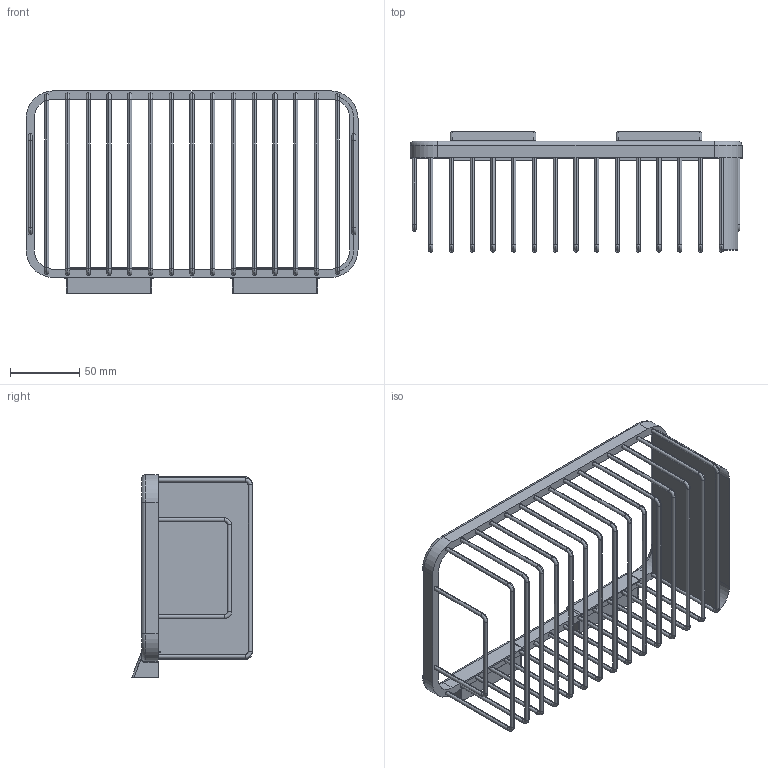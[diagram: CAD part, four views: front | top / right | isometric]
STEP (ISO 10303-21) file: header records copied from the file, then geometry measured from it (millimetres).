
FILE_DESCRIPTION((''),'2;1');
FILE_NAME('8081-P0000_ASM','2024-03-11T09:27:47',('Administrator'),(''),'CREO PARAMETRIC BY PTC INC, 2019471','CREO PARAMETRIC BY PTC INC, 2019471','');
FILE_SCHEMA(('CONFIG_CONTROL_DESIGN'));
Length unit declared in the file: millimetre
Products named in the file (4): 8081-P01; 030463-03; 030463-02; 8081-P0000_ASM
Assembly tree (5 placements, depth 2):
  8081-P0000_ASM
    8081-P01
    030463-03  x2
    030463-02  x2
Bounding box: 240 x 87 x 146.3 mm (x, y, z)
Volume: 89319.5 mm3; surface area: 101722.3 mm2
Topology: 5 solids, 6 shells, 361 faces, 878 edges, 524 vertices
Faces by surface type: cylinder 184, plane 89, torus 76, cone 8, bspline 4
Entity records: 8740 total; most frequent: DIRECTION 1658, CARTESIAN_POINT 1571, ORIENTED_EDGE 1380, EDGE_CURVE 694, AXIS2_PLACEMENT_3D 683, VERTEX_POINT 404, CIRCLE 382, EDGE_LOOP 336
